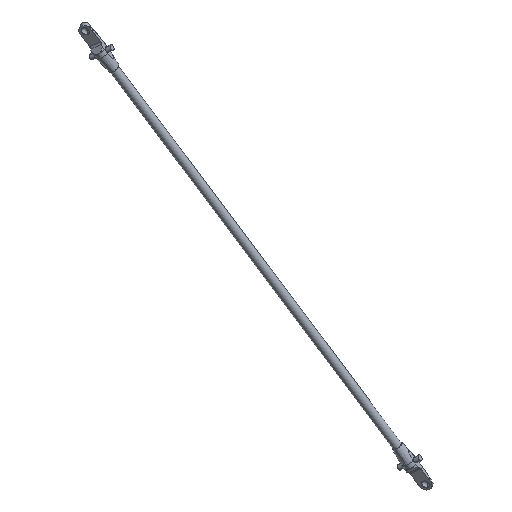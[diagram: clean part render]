
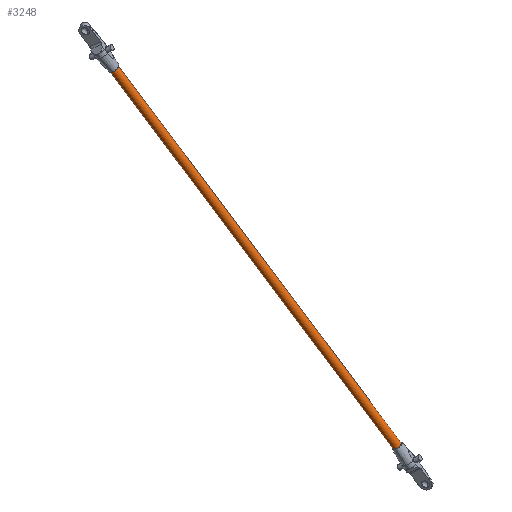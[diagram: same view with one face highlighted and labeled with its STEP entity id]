
A CAD part, isometric view. The second image highlights one B-rep face of the part: STEP entity #3248.
In plain terms, the highlighted cylindrical face has radius 8 mm (diameter 16 mm), a partial arc.
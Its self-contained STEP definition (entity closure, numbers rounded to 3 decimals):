
#60 = DIRECTION ( 'NONE',  ( 0.292, -0.505, -0.812 ) ) ;
#75 = ORIENTED_EDGE ( 'NONE', *, *, #2357, .T. ) ;
#303 = CARTESIAN_POINT ( 'NONE',  ( -229.018, 495.883, -207.915 ) ) ;
#328 = AXIS2_PLACEMENT_3D ( 'NONE', #1893, #3149, #2842 ) ;
#612 = CARTESIAN_POINT ( 'NONE',  ( -246.683, 526.48, -158.699 ) ) ;
#668 = ORIENTED_EDGE ( 'NONE', *, *, #1051, .F. ) ;
#961 = CIRCLE ( 'NONE', #1675, 8. ) ;
#976 = EDGE_CURVE ( 'NONE', #3422, #2943, #1587, .T. ) ;
#990 = LINE ( 'NONE', #3190, #2771 ) ;
#1051 = EDGE_CURVE ( 'NONE', #2933, #3852, #990, .T. ) ;
#1222 = CIRCLE ( 'NONE', #2204, 8. ) ;
#1264 = CARTESIAN_POINT ( 'NONE',  ( -9.863, 124.081, -797.118 ) ) ;
#1292 = FACE_OUTER_BOUND ( 'NONE', #2150, .T. ) ;
#1587 = LINE ( 'NONE', #303, #1728 ) ;
#1648 = CARTESIAN_POINT ( 'NONE',  ( -234.265, 520.536, -150.547 ) ) ;
#1675 = AXIS2_PLACEMENT_3D ( 'NONE', #1264, #3083, #2475 ) ;
#1728 = VECTOR ( 'NONE', #1831, 1000. ) ;
#1765 = CARTESIAN_POINT ( 'NONE',  ( -16.072, 127.052, -801.194 ) ) ;
#1831 = DIRECTION ( 'NONE',  ( 0.292, -0.505, -0.812 ) ) ;
#1874 = DIRECTION ( 'NONE',  ( -0.866, -0.5, 0. ) ) ;
#1893 = CARTESIAN_POINT ( 'NONE',  ( -222.809, 492.911, -203.839 ) ) ;
#2150 = EDGE_LOOP ( 'NONE', ( #668, #3907, #2336, #75 ) ) ;
#2204 = AXIS2_PLACEMENT_3D ( 'NONE', #2495, #3726, #1874 ) ;
#2216 = CYLINDRICAL_SURFACE ( 'NONE', #328, 8. ) ;
#2336 = ORIENTED_EDGE ( 'NONE', *, *, #976, .T. ) ;
#2357 = EDGE_CURVE ( 'NONE', #2943, #3852, #961, .T. ) ;
#2475 = DIRECTION ( 'NONE',  ( -0.866, -0.5, 0. ) ) ;
#2495 = CARTESIAN_POINT ( 'NONE',  ( -240.474, 523.508, -154.623 ) ) ;
#2771 = VECTOR ( 'NONE', #60, 1000. ) ;
#2842 = DIRECTION ( 'NONE',  ( -0.776, 0.371, -0.51 ) ) ;
#2933 = VERTEX_POINT ( 'NONE', #1648 ) ;
#2943 = VERTEX_POINT ( 'NONE', #1765 ) ;
#3083 = DIRECTION ( 'NONE',  ( -0.292, 0.505, 0.812 ) ) ;
#3149 = DIRECTION ( 'NONE',  ( 0.292, -0.505, -0.812 ) ) ;
#3157 = CARTESIAN_POINT ( 'NONE',  ( -3.654, 121.109, -793.042 ) ) ;
#3190 = CARTESIAN_POINT ( 'NONE',  ( -216.6, 489.939, -199.763 ) ) ;
#3195 = EDGE_CURVE ( 'NONE', #2933, #3422, #1222, .T. ) ;
#3248 = ADVANCED_FACE ( 'NONE', ( #1292 ), #2216, .T. ) ;
#3422 = VERTEX_POINT ( 'NONE', #612 ) ;
#3726 = DIRECTION ( 'NONE',  ( 0.292, -0.505, -0.812 ) ) ;
#3852 = VERTEX_POINT ( 'NONE', #3157 ) ;
#3907 = ORIENTED_EDGE ( 'NONE', *, *, #3195, .T. ) ;
